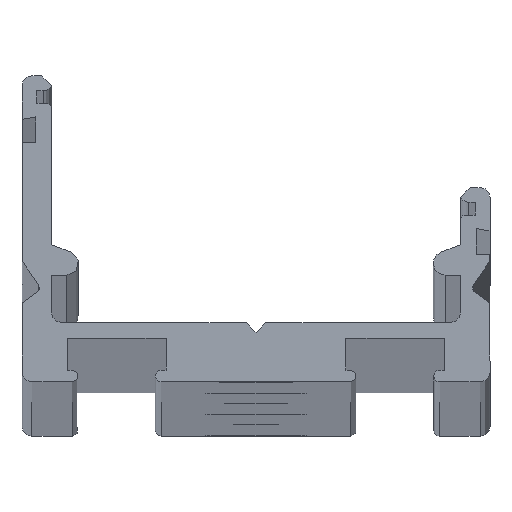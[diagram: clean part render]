
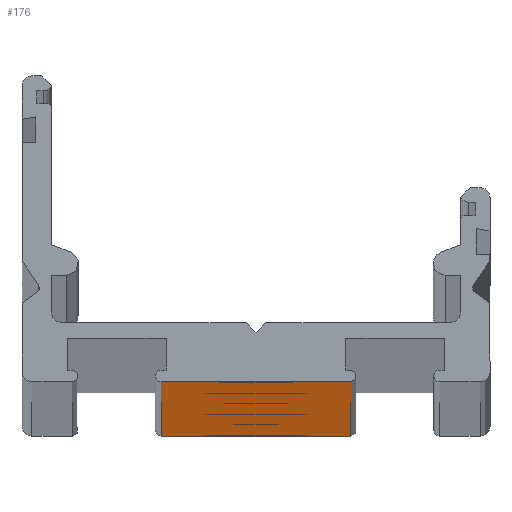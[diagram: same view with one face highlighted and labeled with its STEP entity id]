
A CAD part, top view. The second image highlights one B-rep face of the part: STEP entity #176.
In plain terms, the highlighted planar face has unit normal (0, -1, 0).
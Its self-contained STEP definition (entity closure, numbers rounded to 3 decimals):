
#11 = DIRECTION ( 'NONE',  ( 0., 0., 1. ) ) ;
#75 = VERTEX_POINT ( 'NONE', #914 ) ;
#80 = VERTEX_POINT ( 'NONE', #874 ) ;
#83 = FACE_BOUND ( 'NONE', #3321, .T. ) ;
#86 = EDGE_CURVE ( 'NONE', #80, #1188, #1828, .T. ) ;
#105 = AXIS2_PLACEMENT_3D ( 'NONE', #2358, #1201, #330 ) ;
#122 = FACE_OUTER_BOUND ( 'NONE', #258, .T. ) ;
#124 = CARTESIAN_POINT ( 'NONE',  ( -4.8, 0., 787.4 ) ) ;
#152 = EDGE_CURVE ( 'NONE', #1188, #80, #2736, .T. ) ;
#176 = ADVANCED_FACE ( 'NONE', ( #2707, #3003, #2093, #670, #83, #382, #122 ), #1858, .F. ) ;
#181 = DIRECTION ( 'NONE',  ( 0., 1., 0. ) ) ;
#213 = CARTESIAN_POINT ( 'NONE',  ( -4.8, 0., -787.4 ) ) ;
#225 = ORIENTED_EDGE ( 'NONE', *, *, #853, .T. ) ;
#230 = AXIS2_PLACEMENT_3D ( 'NONE', #2204, #181, #2768 ) ;
#248 = CARTESIAN_POINT ( 'NONE',  ( 0., 0., -154.953 ) ) ;
#258 = EDGE_LOOP ( 'NONE', ( #1388, #1481, #851, #2976 ) ) ;
#269 = DIRECTION ( 'NONE',  ( 0., 0., 1. ) ) ;
#288 = VECTOR ( 'NONE', #1506, 1000. ) ;
#330 = DIRECTION ( 'NONE',  ( 0., 0., 1. ) ) ;
#352 = DIRECTION ( 'NONE',  ( 0., 0., 1. ) ) ;
#382 = FACE_BOUND ( 'NONE', #3309, .T. ) ;
#386 = EDGE_CURVE ( 'NONE', #1024, #1090, #2365, .T. ) ;
#419 = CARTESIAN_POINT ( 'NONE',  ( -4.8, 0., 787.4 ) ) ;
#446 = DIRECTION ( 'NONE',  ( 0., 1., 0. ) ) ;
#467 = CIRCLE ( 'NONE', #3340, 2.553 ) ;
#470 = CARTESIAN_POINT ( 'NONE',  ( 0., 0., 152.4 ) ) ;
#636 = DIRECTION ( 'NONE',  ( 0., 0., 1. ) ) ;
#670 = FACE_BOUND ( 'NONE', #2866, .T. ) ;
#723 = DIRECTION ( 'NONE',  ( 0., 0., 1. ) ) ;
#745 = LINE ( 'NONE', #213, #1901 ) ;
#811 = CARTESIAN_POINT ( 'NONE',  ( 0., 0., -762. ) ) ;
#813 = AXIS2_PLACEMENT_3D ( 'NONE', #1750, #2877, #269 ) ;
#851 = ORIENTED_EDGE ( 'NONE', *, *, #1710, .F. ) ;
#853 = EDGE_CURVE ( 'NONE', #2737, #1647, #1063, .T. ) ;
#859 = CARTESIAN_POINT ( 'NONE',  ( 0., 0., 154.953 ) ) ;
#874 = CARTESIAN_POINT ( 'NONE',  ( 0., 0., 764.553 ) ) ;
#914 = CARTESIAN_POINT ( 'NONE',  ( 0., 0., -764.553 ) ) ;
#988 = DIRECTION ( 'NONE',  ( 0., 1., 0. ) ) ;
#1024 = VERTEX_POINT ( 'NONE', #3628 ) ;
#1063 = CIRCLE ( 'NONE', #2677, 2.553 ) ;
#1064 = DIRECTION ( 'NONE',  ( 0., 0., -1. ) ) ;
#1090 = VERTEX_POINT ( 'NONE', #1932 ) ;
#1135 = VERTEX_POINT ( 'NONE', #859 ) ;
#1145 = AXIS2_PLACEMENT_3D ( 'NONE', #3142, #3670, #2543 ) ;
#1188 = VERTEX_POINT ( 'NONE', #1676 ) ;
#1193 = EDGE_CURVE ( 'NONE', #3011, #1767, #2856, .T. ) ;
#1198 = DIRECTION ( 'NONE',  ( 0., 1., 0. ) ) ;
#1201 = DIRECTION ( 'NONE',  ( 0., 1., 0. ) ) ;
#1215 = VERTEX_POINT ( 'NONE', #1237 ) ;
#1217 = CARTESIAN_POINT ( 'NONE',  ( -4.8, 0., -787.4 ) ) ;
#1226 = EDGE_CURVE ( 'NONE', #3119, #1215, #1306, .T. ) ;
#1237 = CARTESIAN_POINT ( 'NONE',  ( 0., 0., 459.753 ) ) ;
#1285 = DIRECTION ( 'NONE',  ( 0., 0., 1. ) ) ;
#1306 = CIRCLE ( 'NONE', #105, 2.553 ) ;
#1319 = CARTESIAN_POINT ( 'NONE',  ( 0., 0., -459.753 ) ) ;
#1388 = ORIENTED_EDGE ( 'NONE', *, *, #2308, .T. ) ;
#1431 = CIRCLE ( 'NONE', #2800, 2.553 ) ;
#1462 = ORIENTED_EDGE ( 'NONE', *, *, #1598, .T. ) ;
#1476 = DIRECTION ( 'NONE',  ( 0., 1., 0. ) ) ;
#1481 = ORIENTED_EDGE ( 'NONE', *, *, #386, .F. ) ;
#1484 = CARTESIAN_POINT ( 'NONE',  ( 0., 0., -759.447 ) ) ;
#1485 = AXIS2_PLACEMENT_3D ( 'NONE', #811, #3396, #1947 ) ;
#1506 = DIRECTION ( 'NONE',  ( 1., 0., 0. ) ) ;
#1520 = DIRECTION ( 'NONE',  ( 0., 1., 0. ) ) ;
#1538 = EDGE_LOOP ( 'NONE', ( #2777, #3046 ) ) ;
#1589 = DIRECTION ( 'NONE',  ( 0., 0., 1. ) ) ;
#1598 = EDGE_CURVE ( 'NONE', #75, #3327, #3222, .T. ) ;
#1600 = CARTESIAN_POINT ( 'NONE',  ( 0., 0., 149.847 ) ) ;
#1647 = VERTEX_POINT ( 'NONE', #3547 ) ;
#1676 = CARTESIAN_POINT ( 'NONE',  ( 0., 0., 759.447 ) ) ;
#1710 = EDGE_CURVE ( 'NONE', #2498, #1024, #2665, .T. ) ;
#1745 = ORIENTED_EDGE ( 'NONE', *, *, #152, .T. ) ;
#1750 = CARTESIAN_POINT ( 'NONE',  ( 0., 0., 762. ) ) ;
#1767 = VERTEX_POINT ( 'NONE', #3618 ) ;
#1769 = DIRECTION ( 'NONE',  ( 0., 0., 1. ) ) ;
#1828 = CIRCLE ( 'NONE', #813, 2.553 ) ;
#1833 = VECTOR ( 'NONE', #3243, 1000. ) ;
#1852 = CARTESIAN_POINT ( 'NONE',  ( -4.8, 0., 787.4 ) ) ;
#1858 = PLANE ( 'NONE',  #2084 ) ;
#1891 = EDGE_CURVE ( 'NONE', #1647, #2737, #467, .T. ) ;
#1901 = VECTOR ( 'NONE', #3026, 1000. ) ;
#1908 = CARTESIAN_POINT ( 'NONE',  ( 0., 0., 454.647 ) ) ;
#1925 = ORIENTED_EDGE ( 'NONE', *, *, #2452, .T. ) ;
#1932 = CARTESIAN_POINT ( 'NONE',  ( 4.8, 0., -787.4 ) ) ;
#1933 = LINE ( 'NONE', #2149, #3402 ) ;
#1947 = DIRECTION ( 'NONE',  ( 0., 0., 1. ) ) ;
#2033 = ORIENTED_EDGE ( 'NONE', *, *, #1891, .T. ) ;
#2060 = ORIENTED_EDGE ( 'NONE', *, *, #3387, .T. ) ;
#2084 = AXIS2_PLACEMENT_3D ( 'NONE', #419, #988, #723 ) ;
#2087 = EDGE_CURVE ( 'NONE', #1767, #3011, #1431, .T. ) ;
#2089 = ORIENTED_EDGE ( 'NONE', *, *, #2293, .T. ) ;
#2093 = FACE_BOUND ( 'NONE', #2734, .T. ) ;
#2094 = CIRCLE ( 'NONE', #230, 2.553 ) ;
#2149 = CARTESIAN_POINT ( 'NONE',  ( -4.8, 0., 787.4 ) ) ;
#2204 = CARTESIAN_POINT ( 'NONE',  ( 0., 0., 152.4 ) ) ;
#2216 = EDGE_CURVE ( 'NONE', #2498, #2927, #1933, .T. ) ;
#2279 = CIRCLE ( 'NONE', #1145, 2.553 ) ;
#2282 = CARTESIAN_POINT ( 'NONE',  ( 0., 0., -457.2 ) ) ;
#2293 = EDGE_CURVE ( 'NONE', #1135, #3667, #2094, .T. ) ;
#2308 = EDGE_CURVE ( 'NONE', #2927, #1090, #745, .T. ) ;
#2319 = DIRECTION ( 'NONE',  ( 0., 1., 0. ) ) ;
#2358 = CARTESIAN_POINT ( 'NONE',  ( 0., 0., 457.2 ) ) ;
#2365 = LINE ( 'NONE', #2648, #1833 ) ;
#2410 = DIRECTION ( 'NONE',  ( 0., 1., 0. ) ) ;
#2435 = EDGE_LOOP ( 'NONE', ( #1925, #1462 ) ) ;
#2452 = EDGE_CURVE ( 'NONE', #3327, #75, #3172, .T. ) ;
#2498 = VERTEX_POINT ( 'NONE', #124 ) ;
#2543 = DIRECTION ( 'NONE',  ( 0., 0., 1. ) ) ;
#2595 = ORIENTED_EDGE ( 'NONE', *, *, #86, .T. ) ;
#2614 = CARTESIAN_POINT ( 'NONE',  ( 0., 0., 762. ) ) ;
#2648 = CARTESIAN_POINT ( 'NONE',  ( 4.8, 0., 787.4 ) ) ;
#2662 = ORIENTED_EDGE ( 'NONE', *, *, #3018, .T. ) ;
#2665 = LINE ( 'NONE', #1852, #288 ) ;
#2669 = DIRECTION ( 'NONE',  ( 0., 0., 1. ) ) ;
#2671 = AXIS2_PLACEMENT_3D ( 'NONE', #2614, #1198, #11 ) ;
#2677 = AXIS2_PLACEMENT_3D ( 'NONE', #3187, #1476, #352 ) ;
#2689 = DIRECTION ( 'NONE',  ( 0., 1., 0. ) ) ;
#2707 = FACE_BOUND ( 'NONE', #2435, .T. ) ;
#2734 = EDGE_LOOP ( 'NONE', ( #2033, #225 ) ) ;
#2736 = CIRCLE ( 'NONE', #2671, 2.553 ) ;
#2737 = VERTEX_POINT ( 'NONE', #248 ) ;
#2768 = DIRECTION ( 'NONE',  ( 0., 0., 1. ) ) ;
#2777 = ORIENTED_EDGE ( 'NONE', *, *, #2087, .T. ) ;
#2800 = AXIS2_PLACEMENT_3D ( 'NONE', #3200, #1520, #636 ) ;
#2856 = CIRCLE ( 'NONE', #3278, 2.553 ) ;
#2866 = EDGE_LOOP ( 'NONE', ( #2089, #2662 ) ) ;
#2877 = DIRECTION ( 'NONE',  ( 0., 1., 0. ) ) ;
#2927 = VERTEX_POINT ( 'NONE', #1217 ) ;
#2976 = ORIENTED_EDGE ( 'NONE', *, *, #2216, .T. ) ;
#3003 = FACE_BOUND ( 'NONE', #1538, .T. ) ;
#3011 = VERTEX_POINT ( 'NONE', #1319 ) ;
#3018 = EDGE_CURVE ( 'NONE', #3667, #1135, #3346, .T. ) ;
#3026 = DIRECTION ( 'NONE',  ( 1., 0., 0. ) ) ;
#3046 = ORIENTED_EDGE ( 'NONE', *, *, #1193, .T. ) ;
#3119 = VERTEX_POINT ( 'NONE', #1908 ) ;
#3142 = CARTESIAN_POINT ( 'NONE',  ( 0., 0., 457.2 ) ) ;
#3172 = CIRCLE ( 'NONE', #3287, 2.553 ) ;
#3187 = CARTESIAN_POINT ( 'NONE',  ( 0., 0., -152.4 ) ) ;
#3200 = CARTESIAN_POINT ( 'NONE',  ( 0., 0., -457.2 ) ) ;
#3222 = CIRCLE ( 'NONE', #1485, 2.553 ) ;
#3243 = DIRECTION ( 'NONE',  ( 0., 0., -1. ) ) ;
#3278 = AXIS2_PLACEMENT_3D ( 'NONE', #2282, #2319, #2669 ) ;
#3287 = AXIS2_PLACEMENT_3D ( 'NONE', #3516, #2689, #1769 ) ;
#3309 = EDGE_LOOP ( 'NONE', ( #2595, #1745 ) ) ;
#3321 = EDGE_LOOP ( 'NONE', ( #2060, #3508 ) ) ;
#3327 = VERTEX_POINT ( 'NONE', #1484 ) ;
#3340 = AXIS2_PLACEMENT_3D ( 'NONE', #3673, #446, #1589 ) ;
#3346 = CIRCLE ( 'NONE', #3652, 2.553 ) ;
#3387 = EDGE_CURVE ( 'NONE', #1215, #3119, #2279, .T. ) ;
#3396 = DIRECTION ( 'NONE',  ( 0., 1., 0. ) ) ;
#3402 = VECTOR ( 'NONE', #1064, 1000. ) ;
#3508 = ORIENTED_EDGE ( 'NONE', *, *, #1226, .T. ) ;
#3516 = CARTESIAN_POINT ( 'NONE',  ( 0., 0., -762. ) ) ;
#3547 = CARTESIAN_POINT ( 'NONE',  ( 0., 0., -149.847 ) ) ;
#3618 = CARTESIAN_POINT ( 'NONE',  ( 0., 0., -454.647 ) ) ;
#3628 = CARTESIAN_POINT ( 'NONE',  ( 4.8, 0., 787.4 ) ) ;
#3652 = AXIS2_PLACEMENT_3D ( 'NONE', #470, #2410, #1285 ) ;
#3667 = VERTEX_POINT ( 'NONE', #1600 ) ;
#3670 = DIRECTION ( 'NONE',  ( 0., 1., 0. ) ) ;
#3673 = CARTESIAN_POINT ( 'NONE',  ( 0., 0., -152.4 ) ) ;
